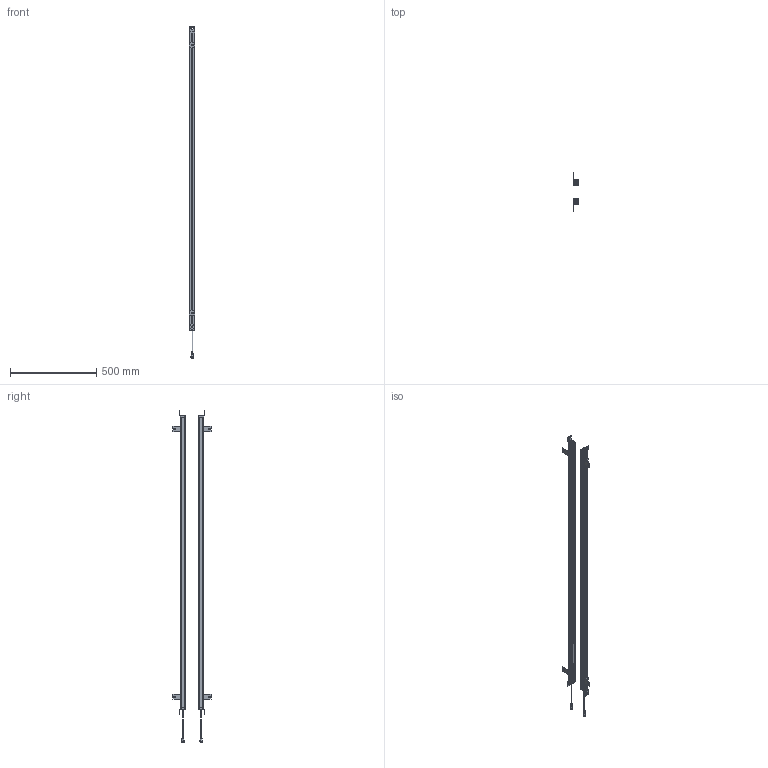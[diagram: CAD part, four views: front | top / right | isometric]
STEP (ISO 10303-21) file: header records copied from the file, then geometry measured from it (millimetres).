
FILE_DESCRIPTION(/* description */ (''),/* implementation_level */ '2;1');
FILE_NAME(/* name */ '4240（29x30).stp',/* time_stamp */ '2023-05-04T09:18:09+08:00',/* author */ (''),/* organization */ (''),/* preprocessor_version */ 'ST-DEVELOPER v16.7',/* originating_system */ 'SIEMENS PLM Software NX 12.0',/* authorisation */ '');
FILE_SCHEMA (('AUTOMOTIVE_DESIGN { 1 0 10303 214 3 1 1 1 }'));
Products named in the file (1): 2640（29x30__stp111_stp
Bounding box: 32.03 x 223.99 x 1921 mm (x, y, z)
Volume: 1042674.9 mm3; surface area: 1072114 mm2
Topology: 34 solids, 34 shells, 1610 faces, 4267 edges, 2771 vertices
Faces by surface type: plane 750, cylinder 648, bspline 88, sphere 36, cone 36, torus 32, extrusion 20
Full cylindrical faces by diameter (mm): 1.533 x6, 4.4 x4, 9 x2, 12.5 x2
Entity records: 56427 total; most frequent: CARTESIAN_POINT 16064, DIRECTION 8330, ORIENTED_EDGE 8324, EDGE_CURVE 4162, AXIS2_PLACEMENT_3D 2918, VERTEX_POINT 2696, VECTOR 2494, LINE 2474
